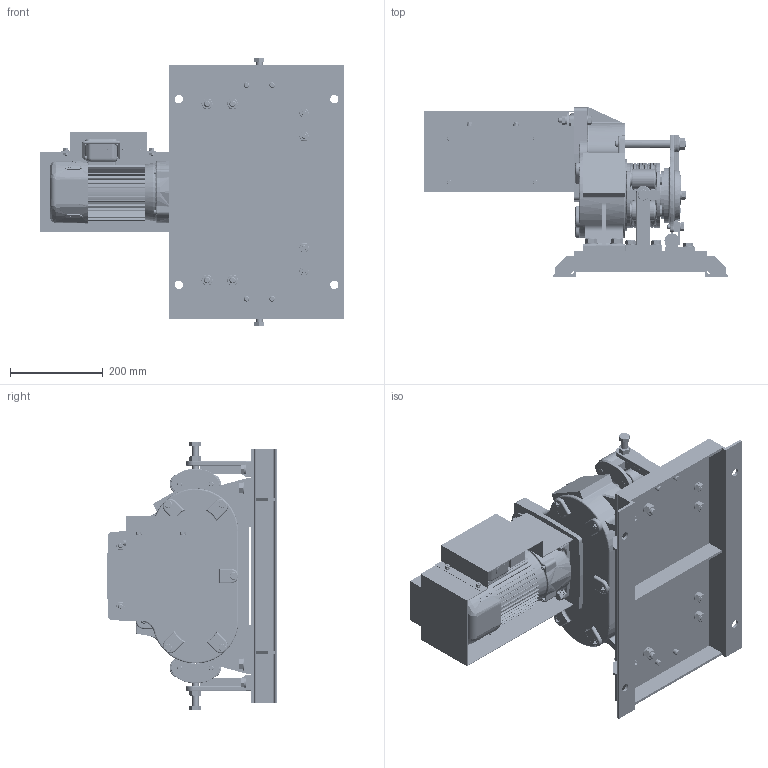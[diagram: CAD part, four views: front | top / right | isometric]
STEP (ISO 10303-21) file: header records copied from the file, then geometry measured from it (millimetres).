
FILE_DESCRIPTION( (''), '2;1');
FILE_NAME ('EME-400.stp','2023-05-11T14:14:27',(''),(''),'spGate 19.8.2 (****-****-****-****)','','');
FILE_SCHEMA (('AUTOMOTIVE_DESIGN'));
Length unit declared in the file: millimetre
Products named in the file (8): Assembly; EME-400-prt0; EME-400-prt1; EME-400-prt2; EME-400-prt3; EME-400-prt4; EME-400-prt5; EME-400-prt6
Assembly tree (7 placements, depth 2):
  Assembly
    EME-400-prt0
    EME-400-prt1
    EME-400-prt2
    EME-400-prt3
    EME-400-prt4
    EME-400-prt5
    EME-400-prt6
Bounding box: 654.1 x 367.5 x 578 mm (x, y, z)
Volume: 18793896.5 mm3; surface area: 2353337.5 mm2
Topology: 1 solids, 1 shells, 5132 faces, 13141 edges, 8319 vertices
Faces by surface type: plane 2728, cylinder 1455, bspline 906, sphere 43
Entity records: 297571 total; most frequent: CARTESIAN_POINT 75110, ORIENTED_EDGE 26272, DIRECTION 22822, COLOUR_RGB 18275, PRESENTATION_STYLE_ASSIGNMENT 18275, STYLED_ITEM 18275, EDGE_CURVE 13136, DRAUGHTING_PRE_DEFINED_CURVE_FONT 13136
